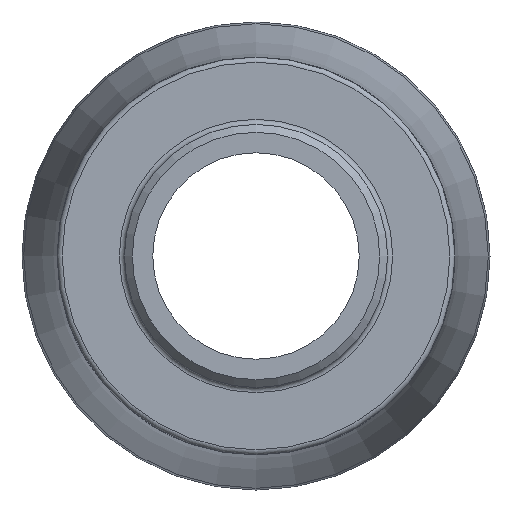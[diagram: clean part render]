
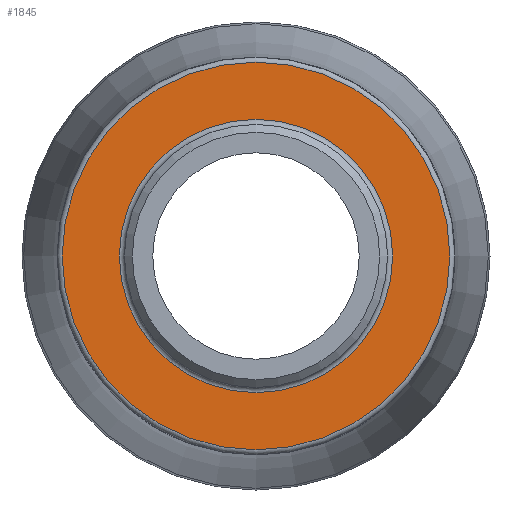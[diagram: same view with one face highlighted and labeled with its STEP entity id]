
A CAD part, left-side view. The second image highlights one B-rep face of the part: STEP entity #1845.
In plain terms, the highlighted planar face has unit normal (-1, 0, 0).
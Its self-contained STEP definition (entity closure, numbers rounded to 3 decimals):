
#194=FACE_BOUND('',#408,.T.);
#208=PLANE('',#2054);
#294=FACE_OUTER_BOUND('',#407,.T.);
#407=EDGE_LOOP('',(#1458,#1459));
#408=EDGE_LOOP('',(#1460,#1461));
#744=CIRCLE('',#2052,24.827);
#745=CIRCLE('',#2053,24.827);
#746=CIRCLE('',#2055,35.2);
#747=CIRCLE('',#2056,35.2);
#881=VERTEX_POINT('',#3251);
#882=VERTEX_POINT('',#3253);
#883=VERTEX_POINT('',#3257);
#884=VERTEX_POINT('',#3258);
#1092=EDGE_CURVE('',#881,#882,#744,.T.);
#1093=EDGE_CURVE('',#882,#881,#745,.T.);
#1094=EDGE_CURVE('',#883,#884,#746,.T.);
#1095=EDGE_CURVE('',#884,#883,#747,.T.);
#1458=ORIENTED_EDGE('',*,*,#1094,.F.);
#1459=ORIENTED_EDGE('',*,*,#1095,.F.);
#1460=ORIENTED_EDGE('',*,*,#1093,.F.);
#1461=ORIENTED_EDGE('',*,*,#1092,.F.);
#1845=ADVANCED_FACE('',(#294,#194),#208,.T.);
#2052=AXIS2_PLACEMENT_3D('',#3254,#2427,#2428);
#2053=AXIS2_PLACEMENT_3D('',#3255,#2429,#2430);
#2054=AXIS2_PLACEMENT_3D('',#3256,#2431,#2432);
#2055=AXIS2_PLACEMENT_3D('',#3259,#2433,#2434);
#2056=AXIS2_PLACEMENT_3D('',#3260,#2435,#2436);
#2427=DIRECTION('center_axis',(-1.,0.,0.));
#2428=DIRECTION('ref_axis',(0.,-1.,0.));
#2429=DIRECTION('center_axis',(-1.,0.,0.));
#2430=DIRECTION('ref_axis',(0.,-1.,0.));
#2431=DIRECTION('center_axis',(-1.,0.,0.));
#2432=DIRECTION('ref_axis',(0.,0.,1.));
#2433=DIRECTION('center_axis',(1.,0.,0.));
#2434=DIRECTION('ref_axis',(0.,-1.,0.));
#2435=DIRECTION('center_axis',(1.,0.,0.));
#2436=DIRECTION('ref_axis',(0.,-1.,0.));
#3251=CARTESIAN_POINT('',(22.,0.,24.827));
#3253=CARTESIAN_POINT('',(22.,24.827,0.));
#3254=CARTESIAN_POINT('Origin',(22.,0.,0.));
#3255=CARTESIAN_POINT('Origin',(22.,0.,0.));
#3256=CARTESIAN_POINT('Origin',(22.,36.125,0.));
#3257=CARTESIAN_POINT('',(22.,35.2,0.));
#3258=CARTESIAN_POINT('',(22.,0.,35.2));
#3259=CARTESIAN_POINT('Origin',(22.,0.,0.));
#3260=CARTESIAN_POINT('Origin',(22.,0.,0.));
